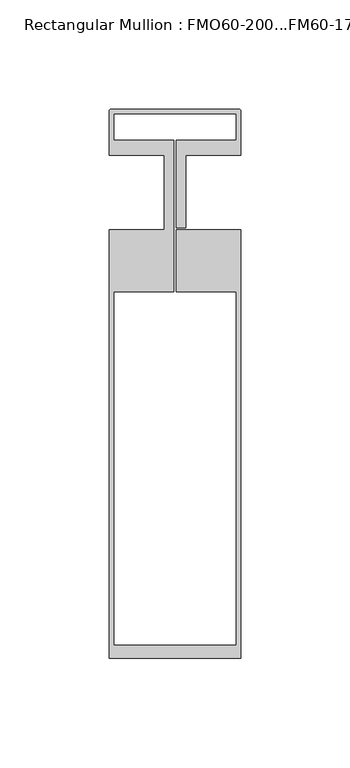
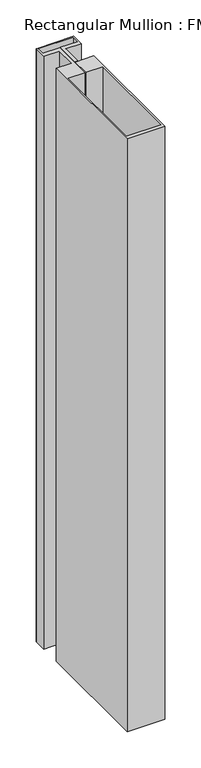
"""IFC4 building model written with IfcOpenShell, lengths in millimetres: member geometry, Rectangular Mullion : FMO60-200...FM60-17."""

from ifc_helpers import new_model, si_unit, point, frame, frame_2d, origin, place, context, project, spatial, polyline, circle_curve, trimmed, segment, composite_curve, outline, extrude, source, transform, mapped, element, save


def rectangular_mullion_fmo60_200_fm60_17_df5e8c79(model_context):
    return source(origin(), model_context, "Body", "SweptSolid", [
        extrude(outline(composite_curve([segment(polyline([(-29.5, 38.0025783), (29.5, 38.0025783)]), True, "CONTINUOUS"), segment(trimmed(circle_curve(frame_2d((29.5, 37.5025783)), 0.5), [point((29.5, 38.0025783))], [point((30.0, 37.5025783))], False, "CARTESIAN"), True, "CONTINUOUS"), segment(polyline([(30.0, 37.5025783), (30.0, 17.0), (5.0, 17.0), (5.0, -16.2), (0.5, -16.2), (0.5, 23.8476589), (28.0000412, 23.8476589), (28.0000412, 36.0025783), (-28.0000412, 36.0025783), (-28.0000412, 23.8476589), (-0.5, 23.8476589), (-0.5, -45.5034642), (-28.0, -45.5034642), (-28.0, -207.009342), (28.0, -207.009342), (28.0, -45.5034642), (0.5, -45.5034642), (0.5, -17.0), (30.0, -17.0), (30.0, -213.009342), (-30.0, -213.009342), (-30.0, -17.0), (-5.0, -17.0), (-5.0, 17.0), (-30.0, 17.0), (-30.0, 37.5025783)]), True, "CONTINUOUS"), segment(trimmed(circle_curve(frame_2d((-29.5, 37.5025783)), 0.5), [point((-30.0, 37.5025783))], [point((-29.5, 38.0025783))], False, "CARTESIAN"), True, "CONTINUOUS")], self_intersect=False)), frame((0.0, 0.0, -1000.0), z_axis=(0.0, 0.0, 1.0), x_axis=(1.0, 0.0, 0.0)), (0.0, 0.0, 1.0), 1000.0),
    ])


if __name__ == "__main__":
    model = new_model("IFC4")
    model_context = context("Model", 3, world=origin())
    ifc_project = project(units=[si_unit("LENGTHUNIT", "METRE", prefix="MILLI")], contexts=[model_context])
    site = spatial("IfcSite", under=ifc_project)
    building = spatial("IfcBuilding", under=site)
    placement = place(None, origin())
    rectangular_mullion_fmo60_200_fm60_17_shape = rectangular_mullion_fmo60_200_fm60_17_df5e8c79(model_context)
    element("IfcMember", 1, ObjectType="Rectangular Mullion : FMO60-200...FM60-17", at=placement, inside=building, context=model_context, shape_type="MappedRepresentation", body=[
        mapped(rectangular_mullion_fmo60_200_fm60_17_shape, transform((0.0, 0.0, 0.0), x_axis=(1.0, 0.0, 0.0), y_axis=(0.0, 1.0, 0.0), z_axis=(0.0, 0.0, 1.0))),
    ])
    save(model, "model.ifc")
